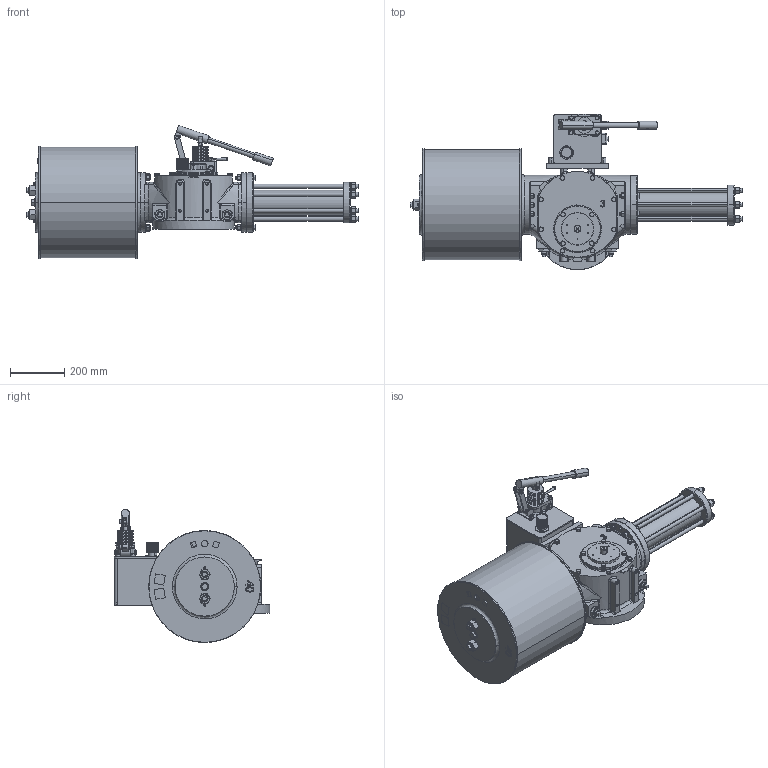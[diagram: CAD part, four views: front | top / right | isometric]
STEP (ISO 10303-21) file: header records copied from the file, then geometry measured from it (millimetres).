
FILE_DESCRIPTION (( 'STEP AP203' ), '1' );
FILE_NAME ('VTS3-400-MH.STEP', '2023-01-01T09:13:29', ( '' ), ( '' ), 'SwSTEP 2.0', 'SolidWorks 2020', '' );
FILE_SCHEMA (( 'CONFIG_CONTROL_DESIGN' ));
Length unit declared in the file: millimetre
Products named in the file (1): VTS3-400-MH
Bounding box: 1223 x 571.9 x 490.77 mm (x, y, z)
Volume: 73399452.3 mm3; surface area: 2410086.8 mm2
Topology: 59 solids, 60 shells, 2600 faces, 6407 edges, 4050 vertices
Faces by surface type: plane 1058, cylinder 852, cone 533, bspline 153, torus 4
Entity records: 93200 total; most frequent: CARTESIAN_POINT 32480, ORIENTED_EDGE 12700, DIRECTION 12564, EDGE_CURVE 6350, AXIS2_PLACEMENT_3D 4904, VERTEX_POINT 4050, EDGE_LOOP 2954, LINE 2756
